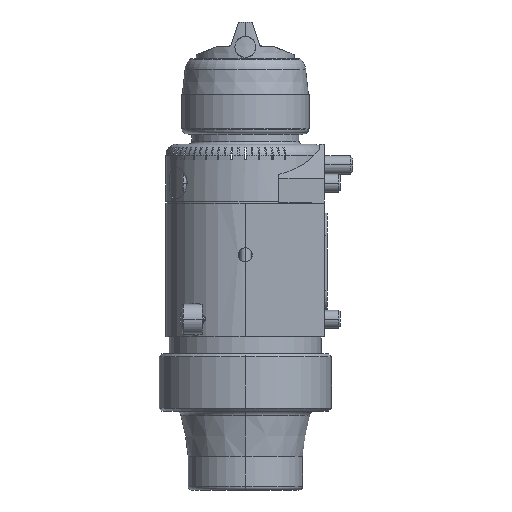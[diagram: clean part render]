
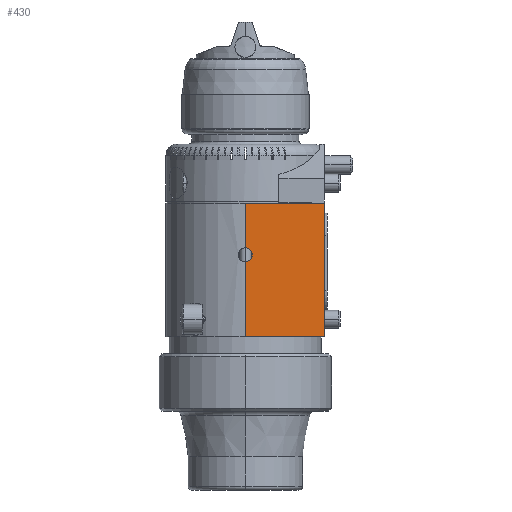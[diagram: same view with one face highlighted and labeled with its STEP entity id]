
A CAD part, left-side view. The second image highlights one B-rep face of the part: STEP entity #430.
In plain terms, the highlighted planar face has unit normal (-1, 0, 0).
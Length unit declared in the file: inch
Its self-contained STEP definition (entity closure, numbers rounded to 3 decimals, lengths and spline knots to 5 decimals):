
#6=DIRECTION('',(0.,-1.,0.));
#7=VECTOR('',#6,0.875);
#8=CARTESIAN_POINT('',(-0.875,0.,-2.425));
#9=LINE('',#8,#7);
#48=DIRECTION('',(0.,0.,1.));
#49=VECTOR('',#48,0.827);
#50=CARTESIAN_POINT('',(-0.875,0.,-2.425));
#51=LINE('',#50,#49);
#52=CARTESIAN_POINT('',(-0.875,0.,-1.52));
#53=DIRECTION('',(-1.,0.,0.));
#54=DIRECTION('',(0.,0.,-1.));
#55=AXIS2_PLACEMENT_3D('',#52,#53,#54);
#57=CARTESIAN_POINT('',(-0.875,0.,-1.52));
#58=DIRECTION('',(-1.,0.,0.));
#59=DIRECTION('',(0.,-1.,0.));
#60=AXIS2_PLACEMENT_3D('',#57,#58,#59);
#62=DIRECTION('',(0.,0.,1.));
#63=VECTOR('',#62,0.492);
#64=CARTESIAN_POINT('',(-0.875,0.,-1.442));
#65=LINE('',#64,#63);
#66=DIRECTION('',(0.,1.,0.));
#67=VECTOR('',#66,0.875);
#68=CARTESIAN_POINT('',(-0.875,-0.875,-0.95));
#69=LINE('',#68,#67);
#70=DIRECTION('',(0.,0.,-1.));
#71=VECTOR('',#70,1.475);
#72=CARTESIAN_POINT('',(-0.875,-0.875,-0.95));
#73=LINE('',#72,#71);
#300=CARTESIAN_POINT('',(-0.875,-0.875,-0.95));
#302=VERTEX_POINT('',#300);
#305=CARTESIAN_POINT('',(-0.875,-0.875,-2.425));
#306=VERTEX_POINT('',#305);
#308=CARTESIAN_POINT('',(-0.875,-0.078,-1.52));
#310=VERTEX_POINT('',#308);
#334=CARTESIAN_POINT('',(-0.875,0.,-2.425));
#336=VERTEX_POINT('',#334);
#343=CARTESIAN_POINT('',(-0.875,0.,-1.598));
#344=VERTEX_POINT('',#343);
#345=CARTESIAN_POINT('',(-0.875,0.,-1.442));
#346=CARTESIAN_POINT('',(-0.875,0.,-0.95));
#347=VERTEX_POINT('',#345);
#348=VERTEX_POINT('',#346);
#411=CARTESIAN_POINT('',(-0.875,-0.875,0.));
#412=DIRECTION('',(-1.,0.,0.));
#413=DIRECTION('',(0.,1.,0.));
#414=AXIS2_PLACEMENT_3D('',#411,#412,#413);
#415=PLANE('',#414);
#417=ORIENTED_EDGE('',*,*,#416,.T.);
#419=ORIENTED_EDGE('',*,*,#418,.T.);
#421=ORIENTED_EDGE('',*,*,#420,.T.);
#423=ORIENTED_EDGE('',*,*,#422,.T.);
#425=ORIENTED_EDGE('',*,*,#424,.F.);
#426=ORIENTED_EDGE('',*,*,#403,.T.);
#427=ORIENTED_EDGE('',*,*,#367,.F.);
#428=EDGE_LOOP('',(#417,#419,#421,#423,#425,#426,#427));
#429=FACE_OUTER_BOUND('',#428,.F.);
#430=ADVANCED_FACE('',(#429),#415,.T.);
#56=CIRCLE('',#55,0.078);
#61=CIRCLE('',#60,0.078);
#367=EDGE_CURVE('',#336,#306,#9,.T.);
#403=EDGE_CURVE('',#302,#306,#73,.T.);
#416=EDGE_CURVE('',#336,#344,#51,.T.);
#418=EDGE_CURVE('',#344,#310,#56,.T.);
#420=EDGE_CURVE('',#310,#347,#61,.T.);
#422=EDGE_CURVE('',#347,#348,#65,.T.);
#424=EDGE_CURVE('',#302,#348,#69,.T.);
